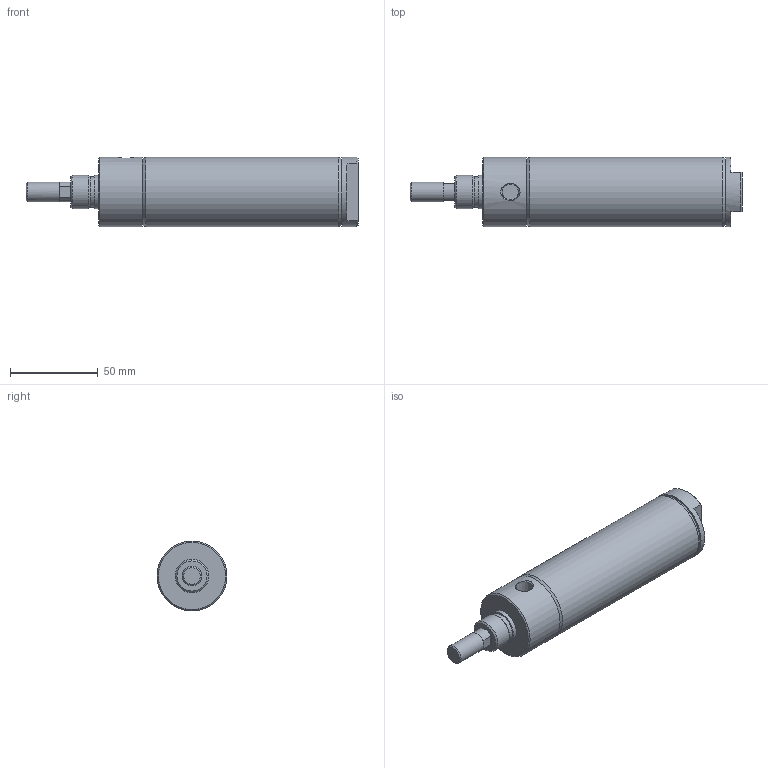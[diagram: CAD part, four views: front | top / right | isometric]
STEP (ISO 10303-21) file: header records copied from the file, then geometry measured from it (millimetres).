
FILE_DESCRIPTION( ( 'STEP AP214' ), '1' );
FILE_NAME( 'p:/temp/worker_459/temp/exporttempdir_5980_34_N79Wu/format_0/1500D01-03A-03.stp', '2020-05-07T18:30:17', ( 'License CC BY-ND 4.0' ), ( 'CADENAS' ), ' ', 'PARTsolutions', ' ' );
FILE_SCHEMA( ( 'AUTOMOTIVE_DESIGN { 1 0 10303 214 1 1 1 1 }' ) );
Length unit declared in the file: inch
Products named in the file (3): 1500D01-03A-03; _1500D01-03A-0300A00A0b; _1500D01-03A-030r
Assembly tree (2 placements, depth 2):
  1500D01-03A-03
    _1500D01-03A-0300A00A0b
    _1500D01-03A-030r
Bounding box: 188.93 x 39.73 x 39.73 mm (x, y, z)
Volume: 105973.6 mm3; surface area: 50605.4 mm2
Topology: 2 solids, 2 shells, 50 faces, 96 edges, 60 vertices
Faces by surface type: plane 26, cone 12, cylinder 12
Full cylindrical faces by diameter (mm): 11.112 x1, 11.125 x3, 17.178 x1, 19.025 x1, 19.05 x1, 38.1 x2, 39.7 x2, 39.726 x1
Entity records: 1653 total; most frequent: CARTESIAN_POINT 265, DIRECTION 216, ORIENTED_EDGE 140, AXIS2_PLACEMENT_3D 98, EDGE_LOOP 82, EDGE_CURVE 70, FACE_OUTER_BOUND 62, VERTEX_POINT 56
